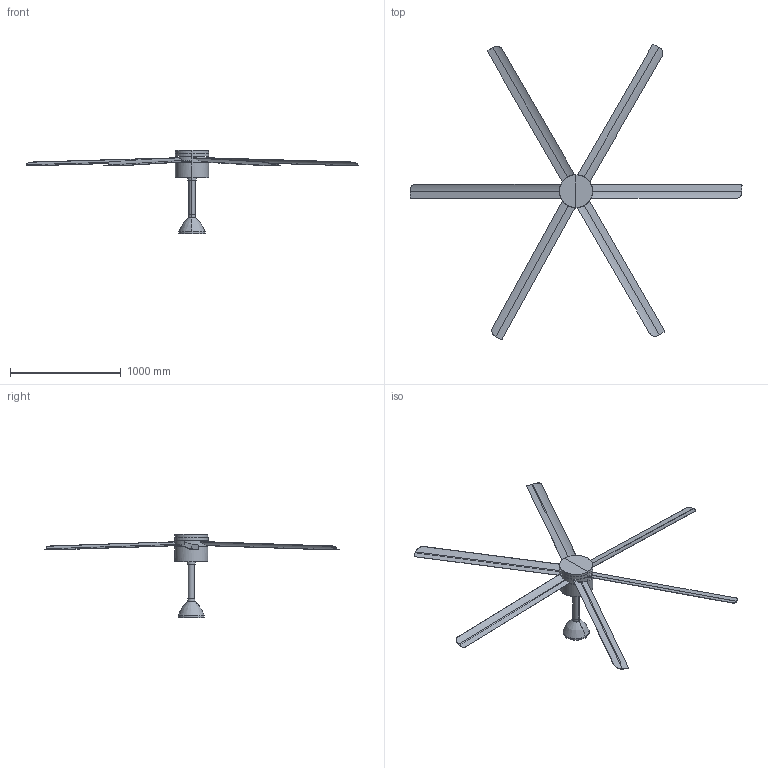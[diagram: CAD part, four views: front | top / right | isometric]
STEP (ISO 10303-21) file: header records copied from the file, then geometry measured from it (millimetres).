
FILE_DESCRIPTION(/* description */ (''),/* implementation_level */ '2;1');
FILE_NAME(/* name */ 'C:\Users\FrancoSartori\Documents\FARO\01_En Proceso\00_KHIOS\03_Publicación\34250.stp',/* time_stamp */ '2021-06-15T10:19:03+02:00',/* author */ ('FrancoSartori'),/* organization */ (''),/* preprocessor_version */ 'ST-DEVELOPER v18.1',/* originating_system */ 'AutoCAD Mechanical',/* authorisation */ '');
FILE_SCHEMA (('AUTOMOTIVE_DESIGN { 1 0 10303 214 3 1 1 }'));
Length unit declared in the file: millimetre
Products named in the file (2): Product; 34250_ - fan-484096-Export
Assembly tree (1 placements, depth 2):
  Product
    34250_ - fan-484096-Export
Bounding box: 3002.58 x 2669.15 x 751.2 mm (x, y, z)
Volume: 18664501.3 mm3; surface area: 3386967.9 mm2
Topology: 5 solids, 11 shells, 268 faces, 684 edges, 436 vertices
Faces by surface type: cylinder 164, plane 88, torus 8, cone 4, bspline 4
Entity records: 11716 total; most frequent: CARTESIAN_POINT 5487, ORIENTED_EDGE 1344, DIRECTION 1158, EDGE_CURVE 684, VERTEX_POINT 436, AXIS2_PLACEMENT_3D 421, LINE 316, VECTOR 316
